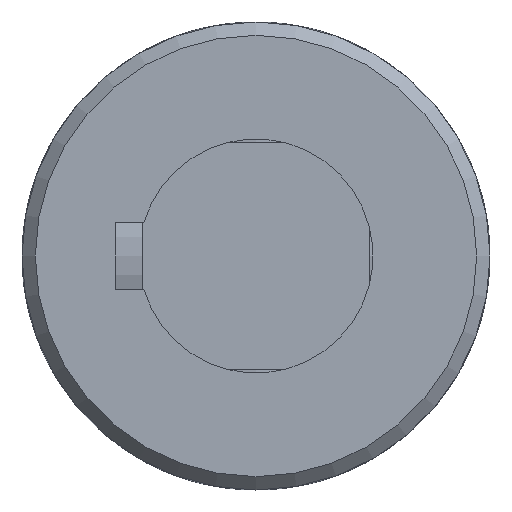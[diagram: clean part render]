
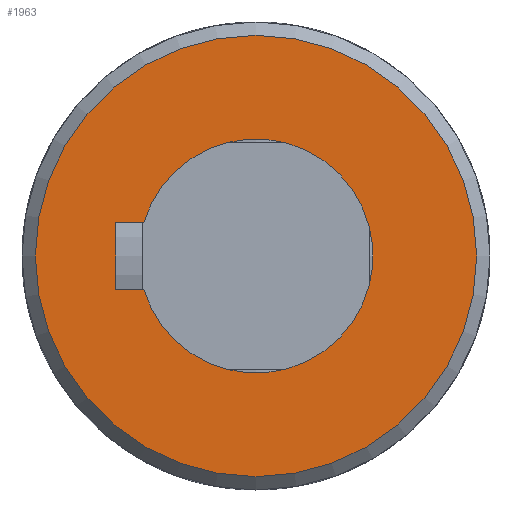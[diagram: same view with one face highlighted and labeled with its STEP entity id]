
A CAD part, front view. The second image highlights one B-rep face of the part: STEP entity #1963.
In plain terms, the highlighted planar face has unit normal (0, -1, 0).
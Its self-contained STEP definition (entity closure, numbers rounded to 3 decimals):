
#85=LINE('',#3643,#154);
#90=LINE('',#3660,#159);
#91=LINE('',#3669,#160);
#154=VECTOR('',#2510,4.229);
#159=VECTOR('',#2521,4.229);
#160=VECTOR('',#2524,10.);
#353=FACE_BOUND('',#637,.T.);
#481=FACE_OUTER_BOUND('',#636,.T.);
#636=EDGE_LOOP('',(#1596));
#637=EDGE_LOOP('',(#1597,#1598,#1599,#1600));
#758=CIRCLE('',#2132,17.5);
#763=CIRCLE('',#2142,33.);
#909=VERTEX_POINT('',#3632);
#910=VERTEX_POINT('',#3634);
#912=VERTEX_POINT('',#3642);
#918=VERTEX_POINT('',#3658);
#920=VERTEX_POINT('',#3675);
#1148=EDGE_CURVE('',#910,#909,#758,.T.);
#1151=EDGE_CURVE('',#912,#910,#85,.T.);
#1159=EDGE_CURVE('',#909,#918,#90,.T.);
#1161=EDGE_CURVE('',#918,#912,#91,.T.);
#1164=EDGE_CURVE('',#920,#920,#763,.T.);
#1596=ORIENTED_EDGE('',*,*,#1164,.F.);
#1597=ORIENTED_EDGE('',*,*,#1159,.T.);
#1598=ORIENTED_EDGE('',*,*,#1161,.T.);
#1599=ORIENTED_EDGE('',*,*,#1151,.T.);
#1600=ORIENTED_EDGE('',*,*,#1148,.T.);
#1868=PLANE('',#2144);
#1963=ADVANCED_FACE('',(#481,#353),#1868,.F.);
#2132=AXIS2_PLACEMENT_3D('',#3635,#2505,#2506);
#2142=AXIS2_PLACEMENT_3D('',#3676,#2533,#2534);
#2144=AXIS2_PLACEMENT_3D('',#3908,#2541,#2542);
#2505=DIRECTION('center_axis',(0.,1.,0.));
#2506=DIRECTION('ref_axis',(0.286,0.,-0.958));
#2510=DIRECTION('',(0.,0.,1.));
#2521=DIRECTION('',(0.,0.,-1.));
#2524=DIRECTION('',(-1.,0.,0.));
#2533=DIRECTION('center_axis',(0.,1.,0.));
#2534=DIRECTION('ref_axis',(1.,0.,0.));
#2541=DIRECTION('center_axis',(0.,1.,0.));
#2542=DIRECTION('ref_axis',(0.,0.,1.));
#3632=CARTESIAN_POINT('',(5.,-87.,-16.771));
#3634=CARTESIAN_POINT('',(-5.,-87.,-16.771));
#3635=CARTESIAN_POINT('Origin',(0.,-87.,0.));
#3642=CARTESIAN_POINT('',(-5.,-87.,-21.));
#3643=CARTESIAN_POINT('',(-5.,-87.,-10.5));
#3658=CARTESIAN_POINT('',(5.,-87.,-21.));
#3660=CARTESIAN_POINT('',(5.,-87.,-8.385));
#3669=CARTESIAN_POINT('',(2.5,-87.,-21.));
#3675=CARTESIAN_POINT('',(-33.,-87.,0.));
#3676=CARTESIAN_POINT('Origin',(0.,-87.,0.));
#3908=CARTESIAN_POINT('Origin',(0.,-87.,0.));
